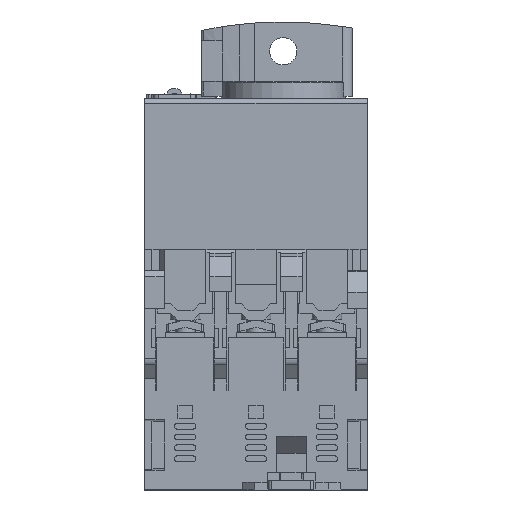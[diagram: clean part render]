
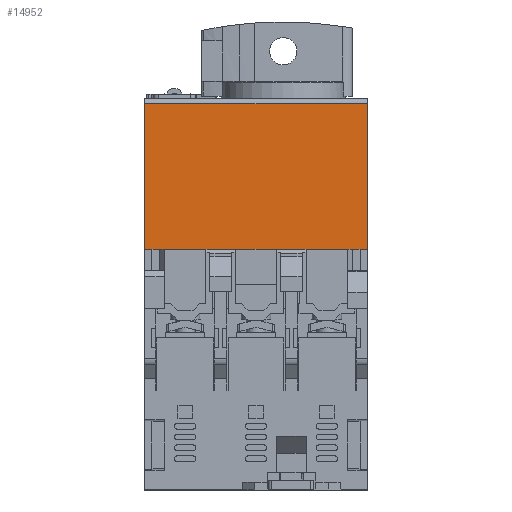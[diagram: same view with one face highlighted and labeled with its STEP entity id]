
A CAD part, front view. The second image highlights one B-rep face of the part: STEP entity #14952.
In plain terms, the highlighted planar face has unit normal (0, -1, 0).
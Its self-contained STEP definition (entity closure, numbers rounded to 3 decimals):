
#1443 = CARTESIAN_POINT ( 'NONE',  ( -22.5, -22.5, 48.6 ) ) ;
#1700 = CARTESIAN_POINT ( 'NONE',  ( 22.5, -22.5, 78. ) ) ;
#4134 = VECTOR ( 'NONE', #13547, 1000. ) ;
#4800 = LINE ( 'NONE', #1443, #32390 ) ;
#5216 = EDGE_CURVE ( 'NONE', #13828, #27360, #20325, .T. ) ;
#6921 = DIRECTION ( 'NONE',  ( 0., 0., -1. ) ) ;
#7032 = PLANE ( 'NONE',  #18674 ) ;
#7268 = EDGE_LOOP ( 'NONE', ( #12513, #10683, #17126, #26988 ) ) ;
#8260 = VECTOR ( 'NONE', #6921, 1000. ) ;
#8509 = VERTEX_POINT ( 'NONE', #12908 ) ;
#9436 = VERTEX_POINT ( 'NONE', #20818 ) ;
#9882 = DIRECTION ( 'NONE',  ( 0., 0., -1. ) ) ;
#10278 = CARTESIAN_POINT ( 'NONE',  ( -22.5, -22.5, 78. ) ) ;
#10683 = ORIENTED_EDGE ( 'NONE', *, *, #25212, .F. ) ;
#12057 = VECTOR ( 'NONE', #9882, 1000. ) ;
#12513 = ORIENTED_EDGE ( 'NONE', *, *, #21582, .T. ) ;
#12908 = CARTESIAN_POINT ( 'NONE',  ( 22.5, -22.5, 48.6 ) ) ;
#13288 = CARTESIAN_POINT ( 'NONE',  ( 22.5, -22.5, 78. ) ) ;
#13547 = DIRECTION ( 'NONE',  ( 1., 0., 0. ) ) ;
#13695 = LINE ( 'NONE', #10278, #8260 ) ;
#13828 = VERTEX_POINT ( 'NONE', #16690 ) ;
#14952 = ADVANCED_FACE ( 'NONE', ( #19518 ), #7032, .T. ) ;
#16690 = CARTESIAN_POINT ( 'NONE',  ( -22.5, -22.5, 78. ) ) ;
#16696 = LINE ( 'NONE', #13288, #12057 ) ;
#16951 = CARTESIAN_POINT ( 'NONE',  ( -22.5, -22.5, 78. ) ) ;
#17126 = ORIENTED_EDGE ( 'NONE', *, *, #5216, .F. ) ;
#18674 = AXIS2_PLACEMENT_3D ( 'NONE', #29956, #26586, #23165 ) ;
#19518 = FACE_OUTER_BOUND ( 'NONE', #7268, .T. ) ;
#20325 = LINE ( 'NONE', #16951, #4134 ) ;
#20818 = CARTESIAN_POINT ( 'NONE',  ( -22.5, -22.5, 48.6 ) ) ;
#21582 = EDGE_CURVE ( 'NONE', #9436, #8509, #4800, .T. ) ;
#23165 = DIRECTION ( 'NONE',  ( 0., 0., -1. ) ) ;
#25212 = EDGE_CURVE ( 'NONE', #27360, #8509, #16696, .T. ) ;
#26586 = DIRECTION ( 'NONE',  ( 0., -1., 0. ) ) ;
#26988 = ORIENTED_EDGE ( 'NONE', *, *, #30436, .T. ) ;
#27360 = VERTEX_POINT ( 'NONE', #1700 ) ;
#29956 = CARTESIAN_POINT ( 'NONE',  ( -22.5, -22.5, 78. ) ) ;
#30436 = EDGE_CURVE ( 'NONE', #13828, #9436, #13695, .T. ) ;
#31123 = DIRECTION ( 'NONE',  ( 1., 0., 0. ) ) ;
#32390 = VECTOR ( 'NONE', #31123, 1000. ) ;
